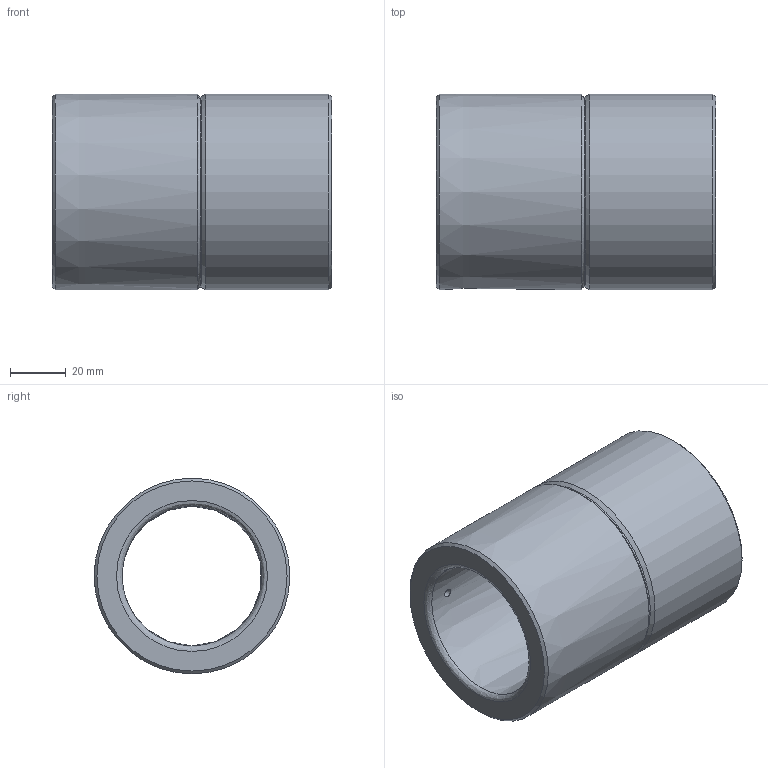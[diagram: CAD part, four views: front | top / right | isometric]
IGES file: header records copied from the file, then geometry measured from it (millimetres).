
Start section: Data from Parasolid IGES Translator 20.0.26, Copyright(c) 2006 Siemens P LM Software. All Rights Reserved.
Global section: file name: WZ 4068 50 x 100.igs; native system: By Siemens PLM Incorporated; preprocessor: XPlus GENERIC/IGES 20.0.26; author: Noname; organization: Noname; date: 20201126.202334; units: millimetre
Bounding box: 100 x 70.04 x 70.04 mm (x, y, z)
Surface area: 41655.2 mm2 (no closed solid volume)
Topology: 0 solids, 0 shells, 17 faces, 64 edges, 45 vertices
Faces by surface type: revolution 13, extrusion 4
